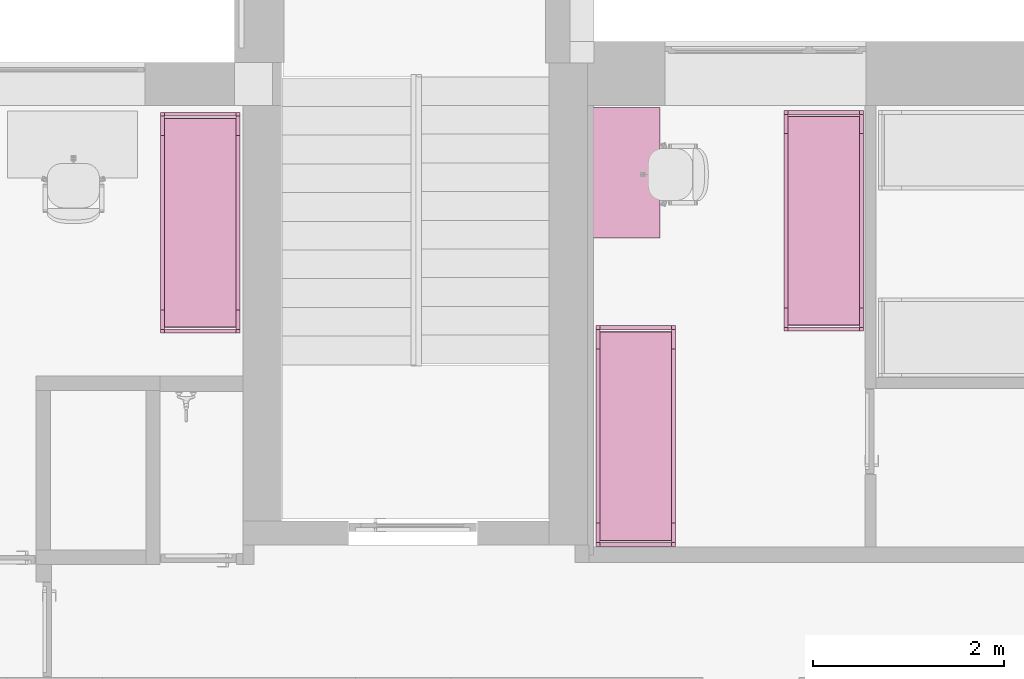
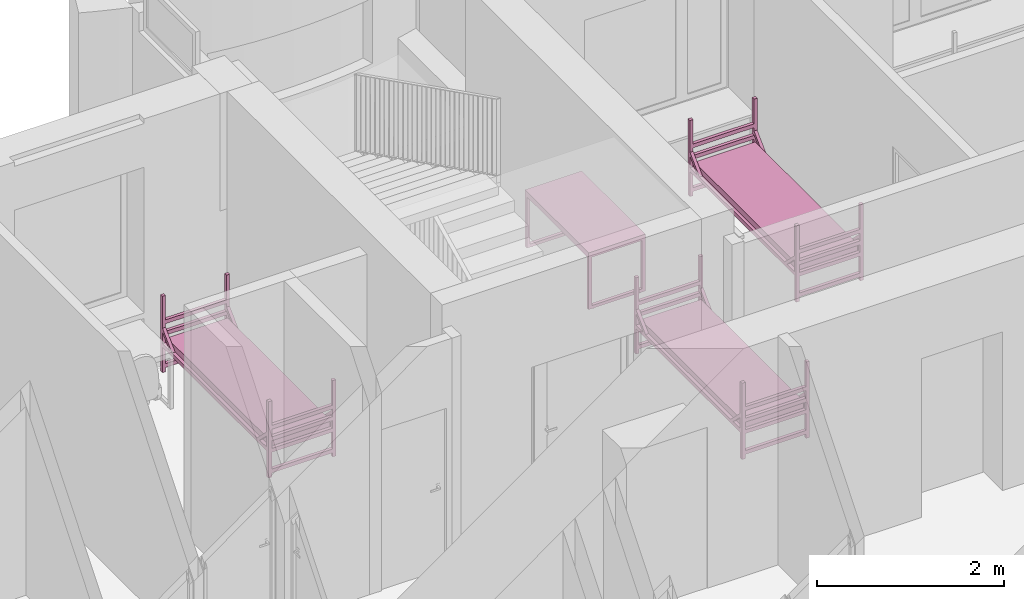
# One storey, part 31 of 48: 4 furnishings.
"""IFC2X3 building model written with IfcOpenShell, lengths in millimetres."""

from ifc_helpers import new_model, entity, si_unit, converted_unit, derived_unit, direction, frame, frame_2d, origin, place, context, subcontext, project, spatial, polyline, circle_curve, parameter, trimmed, segment, composite_curve, rectangle, outline, extrude, faceted_brep, source, transform, mapped, material, material_list, type_object, type_shapes, element, save


model = new_model("IFC2X3")

# Units and contexts
model_context = context("Model", 3, precision=0.01, world=origin(), true_north=direction((6.12303176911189e-17, 1.0)))
body_context = subcontext(model_context, "Body", "Model", "MODEL_VIEW")
ifc_project = project(units=[si_unit("LENGTHUNIT", "METRE", prefix="MILLI"), si_unit("AREAUNIT", "SQUARE_METRE"), si_unit("VOLUMEUNIT", "CUBIC_METRE"), converted_unit("PLANEANGLEUNIT", "DEGREE", entity("IfcRatioMeasure", 0.0174532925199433), si_unit("PLANEANGLEUNIT", "RADIAN"), dimensions=[0, 0, 0, 0, 0, 0, 0]), si_unit("MASSUNIT", "GRAM", prefix="KILO"), derived_unit("MASSDENSITYUNIT", [(si_unit("MASSUNIT", "GRAM", prefix="KILO"), 1), (si_unit("LENGTHUNIT", "METRE"), -3)]), si_unit("TIMEUNIT", "SECOND"), si_unit("FREQUENCYUNIT", "HERTZ"), si_unit("THERMODYNAMICTEMPERATUREUNIT", "DEGREE_CELSIUS"), derived_unit("THERMALTRANSMITTANCEUNIT", [(si_unit("MASSUNIT", "GRAM", prefix="KILO"), 1), (si_unit("THERMODYNAMICTEMPERATUREUNIT", "KELVIN"), -1), (si_unit("TIMEUNIT", "SECOND"), -3)]), derived_unit("VOLUMETRICFLOWRATEUNIT", [(si_unit("LENGTHUNIT", "METRE"), 3), (si_unit("TIMEUNIT", "SECOND"), -1)]), si_unit("ELECTRICCURRENTUNIT", "AMPERE"), si_unit("ELECTRICVOLTAGEUNIT", "VOLT"), si_unit("POWERUNIT", "WATT"), si_unit("FORCEUNIT", "NEWTON", prefix="KILO"), si_unit("ILLUMINANCEUNIT", "LUX"), si_unit("LUMINOUSFLUXUNIT", "LUMEN"), si_unit("LUMINOUSINTENSITYUNIT", "CANDELA"), derived_unit("USERDEFINED", [(si_unit("MASSUNIT", "GRAM", prefix="KILO"), -1), (si_unit("LENGTHUNIT", "METRE"), -2), (si_unit("TIMEUNIT", "SECOND"), 3), (si_unit("LUMINOUSFLUXUNIT", "LUMEN"), 1)]), derived_unit("LINEARVELOCITYUNIT", [(si_unit("LENGTHUNIT", "METRE"), 1), (si_unit("TIMEUNIT", "SECOND"), -1)]), si_unit("PRESSUREUNIT", "PASCAL"), derived_unit("USERDEFINED", [(si_unit("LENGTHUNIT", "METRE"), -2), (si_unit("MASSUNIT", "GRAM", prefix="KILO"), 1), (si_unit("TIMEUNIT", "SECOND"), -2)]), derived_unit("LINEARFORCEUNIT", [(si_unit("MASSUNIT", "GRAM", prefix="KILO"), 1), (si_unit("LENGTHUNIT", "METRE"), 1), (si_unit("TIMEUNIT", "SECOND"), -2), (si_unit("LENGTHUNIT", "METRE"), -1)]), derived_unit("PLANARFORCEUNIT", [(si_unit("MASSUNIT", "GRAM", prefix="KILO"), 1), (si_unit("LENGTHUNIT", "METRE"), 1), (si_unit("TIMEUNIT", "SECOND"), -2), (si_unit("LENGTHUNIT", "METRE"), -2)])], contexts=[model_context])

# Site, building, storey, space
site_placement = place(None, origin())
site = spatial("IfcSite", under=ifc_project, at=site_placement, Name="Default", CompositionType="ELEMENT")
building_placement = place(site_placement, origin())
building = spatial("IfcBuilding", under=site, at=building_placement, Name="SMA ARH", CompositionType="ELEMENT")
storey_placement = place(building_placement, frame((0.0, 0.0, 3300.0)))
storey = spatial("IfcBuildingStorey", under=building, at=storey_placement, Name="2 Korrus", CompositionType="ELEMENT", Elevation=3299.99999999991)
space_1_placement = place(storey_placement, origin())
space_1 = spatial("IfcSpace", under=storey, at=space_1_placement, Name="2-22", CompositionType="ELEMENT", InteriorOrExteriorSpace="INTERNAL")

# Furnishings
ifc_material_1 = material(Name="Madrats")
furniture_type_1 = type_object("IfcFurnitureType", Name="Kasarmu voodi ühekordne 2308x830:Kasarmu voodi ühekordne 2308x830", material=ifc_material_1)
shared_shape_1 = source(origin(), body_context, "Body", "SweptSolid", [
    extrude(rectangle(XDim=39.9999999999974, YDim=750.000000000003, at=frame_2d((-1.35003119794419e-13, -2.8421709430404e-14), x_axis=(1.0, 0.0))), frame((1.68638457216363, -1226.7969571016, 55.0), z_axis=(0.0, 0.0, 1.0), x_axis=(0.0, -1.0, 0.0)), (0.0, 0.0, 1.0), 49.9999999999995),
    extrude(rectangle(XDim=39.9999999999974, YDim=750.000000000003, at=frame_2d((-1.35003119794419e-13, -2.8421709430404e-14), x_axis=(1.0, 0.0))), frame((1.68638457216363, -1226.7969571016, 325.0), z_axis=(0.0, 0.0, 1.0), x_axis=(0.0, -1.0, 0.0)), (0.0, 0.0, 1.0), 49.9999999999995),
    extrude(rectangle(XDim=39.9999999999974, YDim=750.000000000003, at=frame_2d((-1.35003119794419e-13, -2.8421709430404e-14), x_axis=(1.0, 0.0))), frame((1.68638457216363, -1226.7969571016, 475.0), z_axis=(0.0, 0.0, 1.0), x_axis=(0.0, -1.0, 0.0)), (0.0, 0.0, 1.0), 49.9999999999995),
    extrude(rectangle(XDim=39.9999999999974, YDim=750.000000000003, at=frame_2d((-1.35003119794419e-13, -2.8421709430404e-14), x_axis=(1.0, 0.0))), frame((1.68638457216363, -1226.7969571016, 625.0), z_axis=(0.0, 0.0, 1.0), x_axis=(0.0, -1.0, 0.0)), (0.0, 0.0, 1.0), 50.0000000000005),
    extrude(rectangle(XDim=39.9999999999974, YDim=750.000000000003, at=frame_2d((1.35003119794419e-13, -2.8421709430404e-14), x_axis=(1.0, 0.0))), frame((1.68638457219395, 1041.2030428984, 55.0), z_axis=(0.0, 0.0, 1.0), x_axis=(0.0, -1.0, 0.0)), (0.0, 0.0, 1.0), 50.0000000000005),
    extrude(rectangle(XDim=39.9999999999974, YDim=750.000000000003, at=frame_2d((1.35003119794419e-13, -2.8421709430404e-14), x_axis=(1.0, 0.0))), frame((1.68638457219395, 1041.2030428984, 325.0), z_axis=(0.0, 0.0, 1.0), x_axis=(0.0, -1.0, 0.0)), (0.0, 0.0, 1.0), 50.0000000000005),
    extrude(rectangle(XDim=39.9999999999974, YDim=750.000000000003, at=frame_2d((1.35003119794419e-13, -2.8421709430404e-14), x_axis=(1.0, 0.0))), frame((1.68638457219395, 1041.2030428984, 475.0), z_axis=(0.0, 0.0, 1.0), x_axis=(0.0, -1.0, 0.0)), (0.0, 0.0, 1.0), 50.0000000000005),
    extrude(rectangle(XDim=39.9999999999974, YDim=750.000000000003, at=frame_2d((1.35003119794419e-13, -2.8421709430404e-14), x_axis=(1.0, 0.0))), frame((1.68638457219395, 1041.2030428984, 625.0), z_axis=(0.0, 0.0, 1.0), x_axis=(0.0, -1.0, 0.0)), (0.0, 0.0, 1.0), 49.9999999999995),
    extrude(outline(composite_curve([segment(trimmed(circle_curve(frame_2d((1085.0, -40.0), x_axis=(1.0, 0.0)), 10.0), [parameter(270.0)], [parameter(0.0)], True, "PARAMETER"), True, "CONTINUOUS"), segment(polyline([(1095.0, -40.0), (1095.0, 40.0)]), True, "CONTINUOUS"), segment(trimmed(circle_curve(frame_2d((1085.0, 40.0), x_axis=(1.0, 0.0)), 10.0), [parameter(0.0)], [parameter(90.0000000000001)], True, "PARAMETER"), True, "CONTINUOUS"), segment(polyline([(1085.0, 50.0), (-1085.0, 50.0)]), True, "CONTINUOUS"), segment(trimmed(circle_curve(frame_2d((-1085.0, 40.0), x_axis=(1.0, 0.0)), 10.0), [parameter(90.0000000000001)], [parameter(180.0)], True, "PARAMETER"), True, "CONTINUOUS"), segment(polyline([(-1095.0, 40.0), (-1095.0, -40.0)]), True, "CONTINUOUS"), segment(trimmed(circle_curve(frame_2d((-1085.0, -40.0), x_axis=(1.0, 0.0)), 10.0), [parameter(180.0)], [parameter(270.0)], True, "PARAMETER"), True, "CONTINUOUS"), segment(polyline([(-1085.0, -50.0), (1085.0, -50.0)]), True, "CONTINUOUS")], self_intersect=False)), frame((-373.313615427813, -92.7969571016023, 405.0), z_axis=(1.0, 0.0, 0.0), x_axis=(0.0, -1.0, 0.0)), (0.0, 0.0, 1.0), 750.000000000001),
    extrude(outline(polyline([(-1114.0, -100.0), (1114.0, -100.0), (1114.0, -50.0), (961.59199141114, -50.0), (1114.0, 100.0), (1114.0, 150.0), (910.789321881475, -50.0), (-910.789321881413, -50.0), (-1114.0, 150.0), (-1114.0, 100.0), (-961.591991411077, -50.0), (-1114.0, -50.0), (-1114.0, -100.0)])), frame((-413.313615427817, -92.7969571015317, 430.0), z_axis=(1.0, 0.0, 0.0), x_axis=(0.0, 1.0, 0.0)), (0.0, 0.0, 1.0), 39.9999999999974),
    extrude(outline(polyline([(-1114.0, -100.0), (1114.0, -100.0), (1114.0, -50.0), (961.591991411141, -50.0), (1114.0, 100.0), (1114.0, 150.0), (910.789321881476, -50.0), (-910.789321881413, -50.0), (-1114.0, 150.0), (-1114.0, 100.0), (-961.591991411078, -50.0), (-1114.0, -50.0), (-1114.0, -100.0)])), frame((376.686384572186, -92.796957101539, 430.0), z_axis=(1.0, 0.0, 0.0), x_axis=(0.0, 1.0, 0.0)), (0.0, 0.0, 1.0), 39.9999999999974),
    extrude(rectangle(XDim=39.9999999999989, YDim=39.9999999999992, at=frame_2d((-6.75015598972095e-14, 0.0), x_axis=(1.0, 0.0))), frame((396.686384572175, -1226.79695710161, 0.0), z_axis=(0.0, 0.0, 1.0), x_axis=(0.0, 1.0, 0.0)), (0.0, 0.0, 1.0), 995.0),
    extrude(rectangle(XDim=39.9999999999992, YDim=39.9999999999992, at=frame_2d((-1.35003119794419e-13, 0.0), x_axis=(1.0, 0.0))), frame((396.686384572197, 1041.20304289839, 0.0), z_axis=(0.0, 0.0, 1.0), x_axis=(0.0, 1.0, 0.0)), (0.0, 0.0, 1.0), 995.0),
    extrude(rectangle(XDim=40.0000000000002, YDim=39.9999999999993, at=frame_2d((-1.35003119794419e-13, 0.0), x_axis=(1.0, 0.0))), frame((-393.313615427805, 1041.2030428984, 0.0), z_axis=(0.0, 0.0, 1.0), x_axis=(0.0, 1.0, 0.0)), (0.0, 0.0, 1.0), 995.0),
    extrude(rectangle(XDim=39.9999999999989, YDim=39.9999999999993, at=frame_2d((-6.75015598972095e-14, 0.0), x_axis=(1.0, 0.0))), frame((-393.313615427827, -1226.7969571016, 0.0), z_axis=(0.0, 0.0, 1.0), x_axis=(0.0, 1.0, 0.0)), (0.0, 0.0, 1.0), 995.0),
])
type_shapes(furniture_type_1, [shared_shape_1])
for number, where, z_axis, x_axis, name in (
    (1, (14471.6863845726, 11199.8894274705, 0.0), (0.0, 0.0, 1.0), (-1.0, 0.0, 0.0), "Kasarmu voodi ühekordne 2308x830:Kasarmu voodi ühekordne 2308x830"),
    (2, (12506.6863845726, 8950.20304289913, 0.0), (0.0, 0.0, 1.0), (-1.0, 0.0, 0.0), "Kasarmu voodi ühekordne 2308x830:Kasarmu voodi ühekordne 2308x830"),
):
    element("IfcFurnishingElement", number, at=place(space_1_placement, frame(where, z_axis=z_axis, x_axis=x_axis)), inside=space_1, type_object=furniture_type_1, material=ifc_material_1, Name=name, ObjectType="Kasarmu voodi ühekordne 2308x830:Kasarmu voodi ühekordne 2308x830", context=body_context, shape_type="MappedRepresentation", body=[
        mapped(shared_shape_1, transform((0.0, 0.0, 0.0), scale=1.0)),
    ])

# Space
space_2_placement = place(storey_placement, origin())
space_2 = spatial("IfcSpace", under=storey, at=space_2_placement, Name="2-20/2", CompositionType="ELEMENT", InteriorOrExteriorSpace="INTERNAL")

# Furnishings
furnishing_1_placement = place(space_2_placement, frame((7954.50000000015, 11180.0, 0.0), z_axis=(0.0, 0.0, 1.0), x_axis=(-1.0, 0.0, 0.0)))
element("IfcFurnishingElement", 3, at=furnishing_1_placement, inside=space_2, type_object=furniture_type_1, material=ifc_material_1, Name="Kasarmu voodi ühekordne 2308x830:Kasarmu voodi ühekordne 2308x830", ObjectType="Kasarmu voodi ühekordne 2308x830:Kasarmu voodi ühekordne 2308x830", context=body_context, shape_type="MappedRepresentation", body=[
    mapped(shared_shape_1, transform((0.0, 0.0, 0.0), scale=1.0)),
])
ifc_material_2 = material(Name="<Unnamed>")
ifc_material_list = material_list([ifc_material_2, ifc_material_2])
furniture_type_2 = type_object("IfcFurnitureType", Name="kirjutuslaud 1360x700mm:kirjutuslaud 1360x700mm", material=ifc_material_list)
shared_shape_2 = source(origin(), body_context, "Body", "Brep", [
    faceted_brep([(680.0, -350.0, 720.0), (680.0, 350.0, 720.0), (680.0, 350.0, 750.0), (680.0, -350.0, 750.0), (-680.0, -350.0, 720.0), (-680.0, -350.0, 750.0), (-680.0, 350.0, 750.0), (-680.0, 350.0, 720.0)], [[[0, 1, 2, 3]], [[4, 5, 6, 7]], [[1, 0, 4, 7]], [[2, 1, 7, 6]], [[3, 2, 6, 5]], [[0, 3, 5, 4]]]),
    faceted_brep([(-640.0, -310.0, 680.0), (-640.0, 310.0, 680.0), (-640.0, 310.0, 720.0), (-640.0, -310.0, 720.0), (-680.0, -350.0, 720.0), (-680.0, 350.0, 720.0), (-680.0, 350.0, 10.0), (-680.0, -350.0, 10.0), (-680.0, 310.0, 680.0), (-680.0, -310.0, 680.0), (-680.0, -310.0, 50.0), (-680.0, 310.0, 50.0), (-640.0, -350.0, 10.0), (-640.0, -350.0, 680.0), (640.0, -350.0, 680.0), (640.0, -350.0, 10.0), (680.0, -350.0, 10.0), (680.0, -350.0, 720.0), (-640.0, 350.0, 10.0), (680.0, 350.0, 720.0), (680.0, 350.0, 10.0), (640.0, 350.0, 10.0), (640.0, 350.0, 680.0), (-640.0, 350.0, 680.0), (640.0, 310.0, 720.0), (640.0, -310.0, 720.0), (-640.0, 310.0, 50.0), (-640.0, -310.0, 50.0), (640.0, -310.0, 680.0), (640.0, 310.0, 680.0), (680.0, 310.0, 680.0), (680.0, 310.0, 50.0), (680.0, -310.0, 50.0), (680.0, -310.0, 680.0), (640.0, -310.0, 50.0), (640.0, 310.0, 50.0)], [[[0, 1, 2, 3]], [[4, 5, 6, 7], [8, 9, 10, 11]], [[4, 7, 12, 13, 14, 15, 16, 17]], [[18, 12, 7, 6]], [[6, 5, 19, 20, 21, 22, 23, 18]], [[19, 5, 4, 17], [2, 24, 25, 3]], [[26, 1, 8, 11]], [[27, 26, 11, 10]], [[0, 27, 10, 9]], [[1, 0, 9, 8]], [[14, 13, 0, 28]], [[24, 2, 1, 29]], [[3, 25, 28, 0]], [[17, 16, 20, 19], [30, 31, 32, 33]], [[21, 15, 14, 28, 34, 35, 29, 22]], [[20, 16, 15, 21]], [[31, 30, 29, 35]], [[32, 31, 35, 34]], [[33, 32, 34, 28]], [[30, 33, 28, 29]], [[29, 28, 25, 24]], [[29, 1, 23, 22]], [[12, 18, 23, 1, 26, 27, 0, 13]]]),
    faceted_brep([(-663.729456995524, -270.466136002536, 0.0), (-659.847171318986, -269.955023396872, 0.0), (-655.964885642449, -270.466136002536, 0.0), (-652.347171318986, -271.964642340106, 0.0), (-649.240569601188, -274.348421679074, 0.0), (-646.85679026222, -277.455023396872, 0.0), (-645.35828392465, -281.072737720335, 0.0), (-644.847171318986, -284.955023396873, 0.0), (-645.35828392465, -288.83730907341, 0.0), (-646.85679026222, -292.455023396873, 0.0), (-649.240569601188, -295.561625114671, 0.0), (-652.347171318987, -297.945404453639, 0.0), (-655.964885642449, -299.443910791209, 0.0), (-659.847171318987, -299.955023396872, 0.0), (-663.729456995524, -299.443910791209, 0.0), (-667.347171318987, -297.945404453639, 0.0), (-670.453773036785, -295.561625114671, 0.0), (-672.837552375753, -292.455023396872, 0.0), (-674.336058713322, -288.83730907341, 0.0), (-674.847171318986, -284.955023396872, 0.0), (-674.336058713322, -281.072737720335, 0.0), (-672.837552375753, -277.455023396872, 0.0), (-670.453773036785, -274.348421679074, 0.0), (-667.347171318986, -271.964642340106, 0.0), (-655.964885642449, -299.443910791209, 10.0), (-652.347171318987, -297.945404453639, 10.0), (-649.240569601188, -295.561625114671, 10.0), (-646.85679026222, -292.455023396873, 10.0), (-645.35828392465, -288.83730907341, 10.0), (-644.847171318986, -284.955023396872, 10.0), (-645.35828392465, -281.072737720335, 10.0), (-646.85679026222, -277.455023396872, 10.0), (-649.240569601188, -274.348421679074, 10.0), (-652.347171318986, -271.964642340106, 10.0), (-655.964885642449, -270.466136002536, 10.0), (-659.847171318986, -269.955023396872, 10.0), (-663.729456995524, -270.466136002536, 10.0), (-667.347171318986, -271.964642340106, 10.0), (-670.453773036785, -274.348421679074, 10.0), (-672.837552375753, -277.455023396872, 10.0), (-674.336058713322, -281.072737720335, 10.0), (-674.847171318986, -284.955023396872, 10.0), (-674.336058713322, -288.83730907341, 10.0), (-672.837552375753, -292.455023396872, 10.0), (-670.453773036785, -295.561625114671, 10.0), (-667.347171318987, -297.945404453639, 10.0), (-663.729456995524, -299.443910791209, 10.0), (-659.847171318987, -299.955023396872, 10.0)], [[[0, 1, 2, 3, 4, 5, 6, 7, 8, 9, 10, 11, 12, 13, 14, 15, 16, 17, 18, 19, 20, 21, 22, 23]], [[24, 25, 26, 27, 28, 29, 30, 31, 32, 33, 34, 35, 36, 37, 38, 39, 40, 41, 42, 43, 44, 45, 46, 47]], [[18, 42, 41, 19]], [[17, 43, 42, 18]], [[45, 44, 16, 15]], [[17, 16, 44, 43]], [[46, 45, 15, 14]], [[47, 46, 14, 13]], [[12, 24, 47, 13]], [[11, 25, 24, 12]], [[27, 26, 10, 9]], [[11, 10, 26, 25]], [[28, 27, 9, 8]], [[29, 28, 8, 7]], [[6, 30, 29, 7]], [[5, 31, 30, 6]], [[33, 32, 4, 3]], [[5, 4, 32, 31]], [[34, 33, 3, 2]], [[35, 34, 2, 1]], [[0, 36, 35, 1]], [[23, 37, 36, 0]], [[39, 38, 22, 21]], [[23, 22, 38, 37]], [[40, 39, 21, 20]], [[41, 40, 20, 19]]]),
    faceted_brep([(-655.964885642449, 270.466136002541, 10.0), (-652.347171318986, 271.964642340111, 10.0), (-649.240569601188, 274.348421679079, 10.0), (-646.85679026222, 277.455023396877, 10.0), (-645.35828392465, 281.07273772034, 10.0), (-644.847171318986, 284.955023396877, 10.0), (-645.35828392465, 288.837309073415, 10.0), (-646.85679026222, 292.455023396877, 10.0), (-649.240569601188, 295.561625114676, 10.0), (-652.347171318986, 297.945404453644, 10.0), (-655.964885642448, 299.443910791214, 10.0), (-659.847171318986, 299.955023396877, 10.0), (-663.729456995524, 299.443910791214, 10.0), (-667.347171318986, 297.945404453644, 10.0), (-670.453773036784, 295.561625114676, 10.0), (-672.837552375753, 292.455023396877, 10.0), (-674.336058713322, 288.837309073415, 10.0), (-674.847171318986, 284.955023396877, 10.0), (-674.336058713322, 281.07273772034, 10.0), (-672.837552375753, 277.455023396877, 10.0), (-670.453773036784, 274.348421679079, 10.0), (-667.347171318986, 271.964642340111, 10.0), (-663.729456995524, 270.466136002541, 10.0), (-659.847171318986, 269.955023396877, 10.0), (-655.964885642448, 299.443910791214, 0.0), (-652.347171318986, 297.945404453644, 0.0), (-649.240569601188, 295.561625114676, 0.0), (-646.85679026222, 292.455023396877, 0.0), (-645.35828392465, 288.837309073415, 0.0), (-644.847171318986, 284.955023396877, 0.0), (-645.35828392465, 281.07273772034, 0.0), (-646.85679026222, 277.455023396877, 0.0), (-649.240569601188, 274.348421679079, 0.0), (-652.347171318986, 271.964642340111, 0.0), (-655.964885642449, 270.466136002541, 0.0), (-659.847171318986, 269.955023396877, 0.0), (-663.729456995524, 270.466136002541, 0.0), (-667.347171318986, 271.964642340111, 0.0), (-670.453773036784, 274.348421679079, 0.0), (-672.837552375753, 277.455023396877, 0.0), (-674.336058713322, 281.07273772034, 0.0), (-674.847171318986, 284.955023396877, 0.0), (-674.336058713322, 288.837309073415, 0.0), (-672.837552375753, 292.455023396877, 0.0), (-670.453773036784, 295.561625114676, 0.0), (-667.347171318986, 297.945404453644, 0.0), (-663.729456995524, 299.443910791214, 0.0), (-659.847171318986, 299.955023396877, 0.0)], [[[0, 1, 2, 3, 4, 5, 6, 7, 8, 9, 10, 11, 12, 13, 14, 15, 16, 17, 18, 19, 20, 21, 22, 23]], [[24, 25, 26, 27, 28, 29, 30, 31, 32, 33, 34, 35, 36, 37, 38, 39, 40, 41, 42, 43, 44, 45, 46, 47]], [[40, 18, 17, 41]], [[39, 19, 18, 40]], [[21, 20, 38, 37]], [[39, 38, 20, 19]], [[22, 21, 37, 36]], [[23, 22, 36, 35]], [[34, 0, 23, 35]], [[33, 1, 0, 34]], [[3, 2, 32, 31]], [[33, 32, 2, 1]], [[4, 3, 31, 30]], [[5, 4, 30, 29]], [[28, 6, 5, 29]], [[27, 7, 6, 28]], [[9, 8, 26, 25]], [[27, 26, 8, 7]], [[10, 9, 25, 24]], [[11, 10, 24, 47]], [[46, 12, 11, 47]], [[45, 13, 12, 46]], [[15, 14, 44, 43]], [[45, 44, 14, 13]], [[16, 15, 43, 42]], [[17, 16, 42, 41]]]),
    faceted_brep([(656.270543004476, -270.466136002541, 0.0), (660.152828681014, -269.955023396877, 0.0), (664.035114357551, -270.466136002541, 0.0), (667.652828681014, -271.96464234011, 0.0), (670.759430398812, -274.348421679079, 0.0), (673.14320973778, -277.455023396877, 0.0), (674.64171607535, -281.072737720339, 0.0), (675.152828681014, -284.955023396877, 0.0), (674.64171607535, -288.837309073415, 0.0), (673.14320973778, -292.455023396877, 0.0), (670.759430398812, -295.561625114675, 0.0), (667.652828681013, -297.945404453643, 0.0), (664.035114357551, -299.443910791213, 0.0), (660.152828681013, -299.955023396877, 0.0), (656.270543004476, -299.443910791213, 0.0), (652.652828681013, -297.945404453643, 0.0), (649.546226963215, -295.561625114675, 0.0), (647.162447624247, -292.455023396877, 0.0), (645.663941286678, -288.837309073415, 0.0), (645.152828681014, -284.955023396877, 0.0), (645.663941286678, -281.072737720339, 0.0), (647.162447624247, -277.455023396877, 0.0), (649.546226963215, -274.348421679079, 0.0), (652.652828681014, -271.96464234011, 0.0), (664.035114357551, -299.443910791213, 10.0), (667.652828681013, -297.945404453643, 10.0), (670.759430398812, -295.561625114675, 10.0), (673.14320973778, -292.455023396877, 10.0), (674.64171607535, -288.837309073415, 10.0), (675.152828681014, -284.955023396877, 10.0), (674.64171607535, -281.072737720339, 10.0), (673.14320973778, -277.455023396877, 10.0), (670.759430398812, -274.348421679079, 10.0), (667.652828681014, -271.96464234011, 10.0), (664.035114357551, -270.466136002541, 10.0), (660.152828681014, -269.955023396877, 10.0), (656.270543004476, -270.466136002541, 10.0), (652.652828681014, -271.96464234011, 10.0), (649.546226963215, -274.348421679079, 10.0), (647.162447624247, -277.455023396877, 10.0), (645.663941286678, -281.072737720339, 10.0), (645.152828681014, -284.955023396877, 10.0), (645.663941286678, -288.837309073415, 10.0), (647.162447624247, -292.455023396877, 10.0), (649.546226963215, -295.561625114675, 10.0), (652.652828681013, -297.945404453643, 10.0), (656.270543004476, -299.443910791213, 10.0), (660.152828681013, -299.955023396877, 10.0)], [[[0, 1, 2, 3, 4, 5, 6, 7, 8, 9, 10, 11, 12, 13, 14, 15, 16, 17, 18, 19, 20, 21, 22, 23]], [[24, 25, 26, 27, 28, 29, 30, 31, 32, 33, 34, 35, 36, 37, 38, 39, 40, 41, 42, 43, 44, 45, 46, 47]], [[18, 42, 41, 19]], [[17, 43, 42, 18]], [[45, 44, 16, 15]], [[17, 16, 44, 43]], [[46, 45, 15, 14]], [[47, 46, 14, 13]], [[12, 24, 47, 13]], [[11, 25, 24, 12]], [[27, 26, 10, 9]], [[11, 10, 26, 25]], [[28, 27, 9, 8]], [[29, 28, 8, 7]], [[6, 30, 29, 7]], [[5, 31, 30, 6]], [[33, 32, 4, 3]], [[5, 4, 32, 31]], [[34, 33, 3, 2]], [[35, 34, 2, 1]], [[0, 36, 35, 1]], [[23, 37, 36, 0]], [[39, 38, 22, 21]], [[23, 22, 38, 37]], [[40, 39, 21, 20]], [[41, 40, 20, 19]]]),
    faceted_brep([(664.035114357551, 270.466136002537, 10.0), (667.652828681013, 271.964642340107, 10.0), (670.759430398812, 274.348421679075, 10.0), (673.14320973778, 277.455023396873, 10.0), (674.64171607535, 281.072737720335, 10.0), (675.152828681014, 284.955023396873, 10.0), (674.64171607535, 288.837309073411, 10.0), (673.14320973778, 292.455023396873, 10.0), (670.759430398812, 295.561625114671, 10.0), (667.652828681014, 297.94540445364, 10.0), (664.035114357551, 299.443910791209, 10.0), (660.152828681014, 299.955023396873, 10.0), (656.270543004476, 299.443910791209, 10.0), (652.652828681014, 297.94540445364, 10.0), (649.546226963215, 295.561625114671, 10.0), (647.162447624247, 292.455023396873, 10.0), (645.663941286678, 288.837309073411, 10.0), (645.152828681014, 284.955023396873, 10.0), (645.663941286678, 281.072737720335, 10.0), (647.162447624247, 277.455023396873, 10.0), (649.546226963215, 274.348421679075, 10.0), (652.652828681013, 271.964642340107, 10.0), (656.270543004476, 270.466136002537, 10.0), (660.152828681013, 269.955023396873, 10.0), (664.035114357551, 299.443910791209, 0.0), (667.652828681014, 297.94540445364, 0.0), (670.759430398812, 295.561625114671, 0.0), (673.14320973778, 292.455023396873, 0.0), (674.64171607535, 288.837309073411, 0.0), (675.152828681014, 284.955023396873, 0.0), (674.64171607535, 281.072737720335, 0.0), (673.14320973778, 277.455023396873, 0.0), (670.759430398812, 274.348421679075, 0.0), (667.652828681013, 271.964642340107, 0.0), (664.035114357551, 270.466136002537, 0.0), (660.152828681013, 269.955023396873, 0.0), (656.270543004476, 270.466136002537, 0.0), (652.652828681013, 271.964642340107, 0.0), (649.546226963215, 274.348421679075, 0.0), (647.162447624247, 277.455023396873, 0.0), (645.663941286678, 281.072737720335, 0.0), (645.152828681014, 284.955023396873, 0.0), (645.663941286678, 288.837309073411, 0.0), (647.162447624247, 292.455023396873, 0.0), (649.546226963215, 295.561625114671, 0.0), (652.652828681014, 297.94540445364, 0.0), (656.270543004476, 299.443910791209, 0.0), (660.152828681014, 299.955023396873, 0.0)], [[[0, 1, 2, 3, 4, 5, 6, 7, 8, 9, 10, 11, 12, 13, 14, 15, 16, 17, 18, 19, 20, 21, 22, 23]], [[24, 25, 26, 27, 28, 29, 30, 31, 32, 33, 34, 35, 36, 37, 38, 39, 40, 41, 42, 43, 44, 45, 46, 47]], [[40, 18, 17, 41]], [[39, 19, 18, 40]], [[21, 20, 38, 37]], [[39, 38, 20, 19]], [[22, 21, 37, 36]], [[23, 22, 36, 35]], [[34, 0, 23, 35]], [[33, 1, 0, 34]], [[3, 2, 32, 31]], [[33, 32, 2, 1]], [[4, 3, 31, 30]], [[5, 4, 30, 29]], [[28, 6, 5, 29]], [[27, 7, 6, 28]], [[9, 8, 26, 25]], [[27, 26, 8, 7]], [[10, 9, 25, 24]], [[11, 10, 24, 47]], [[46, 12, 11, 47]], [[45, 13, 12, 46]], [[15, 14, 44, 43]], [[45, 44, 14, 13]], [[16, 15, 43, 42]], [[17, 16, 42, 41]]]),
])
type_shapes(furniture_type_2, [shared_shape_2])
furnishing_2_placement = place(space_1_placement, frame((12410.0308725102, 11794.9897091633, 0.0), z_axis=(0.0, 0.0, 1.0), x_axis=(0.0, 1.0, 0.0)))
element("IfcFurnishingElement", 4, at=furnishing_2_placement, inside=space_1, type_object=furniture_type_2, Name="kirjutuslaud 1360x700mm:kirjutuslaud 1360x700mm", ObjectType="kirjutuslaud 1360x700mm:kirjutuslaud 1360x700mm", context=body_context, shape_type="MappedRepresentation", body=[
    mapped(shared_shape_2, transform((0.0, 0.0, 0.0), scale=1.0)),
])

save(model, "model.ifc")
